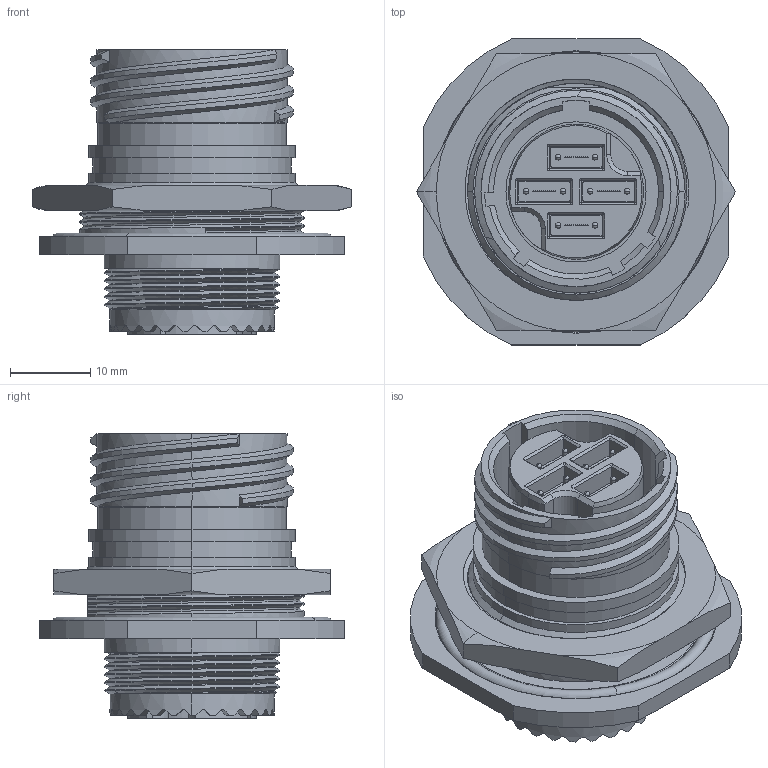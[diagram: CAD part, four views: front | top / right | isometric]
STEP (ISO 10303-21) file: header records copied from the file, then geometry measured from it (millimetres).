
FILE_DESCRIPTION (( 'STEP AP214' ), '1' );
FILE_NAME ('Q38MT-RJX-15XX-X.STEP', '2025-08-29T20:58:46', ( '' ), ( '' ), 'SwSTEP 2.0', 'SolidWorks 2024', '' );
FILE_SCHEMA (( 'AUTOMOTIVE_DESIGN' ));
Length unit declared in the file: inch
Products named in the file (1): Q38MT-RJX-15XX-X
Bounding box: 39.74 x 38.1 x 35.43 mm (x, y, z)
Volume: 16553.3 mm3; surface area: 11671 mm2
Topology: 2 solids, 6 shells, 795 faces, 2017 edges, 1298 vertices
Faces by surface type: plane 346, cylinder 309, cone 65, bspline 31, torus 28, sphere 16
Entity records: 31547 total; most frequent: CARTESIAN_POINT 12882, ORIENTED_EDGE 4002, DIRECTION 3888, EDGE_CURVE 2001, AXIS2_PLACEMENT_3D 1518, VERTEX_POINT 1298, EDGE_LOOP 885, LINE 852
